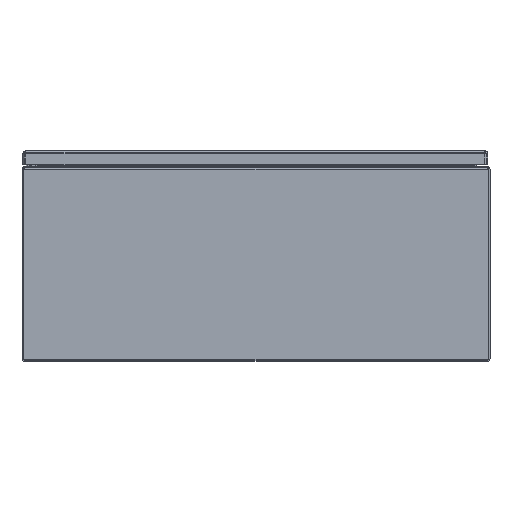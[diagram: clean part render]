
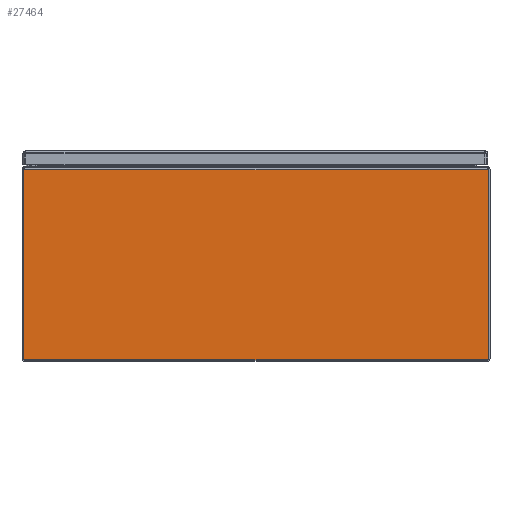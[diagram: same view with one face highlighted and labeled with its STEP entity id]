
A CAD part, front view. The second image highlights one B-rep face of the part: STEP entity #27464.
In plain terms, the highlighted planar face has unit normal (0, -1, 0).
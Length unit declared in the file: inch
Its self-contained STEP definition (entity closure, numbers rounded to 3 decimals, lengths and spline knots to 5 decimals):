
#8000 = EDGE_CURVE ( 'NONE', #39509, #39226, #43890, .T. ) ;
#8216 = EDGE_CURVE ( 'NONE', #39430, #39869, #44000, .T. ) ;
#12680 = AXIS2_PLACEMENT_3D ( 'NONE', #19036, #19040, #19041 ) ;
#19036 = CARTESIAN_POINT ( 'NONE',  ( 12., 0., 0.08 ) ) ;
#19037 = PLANE ( 'NONE',  #12680 ) ;
#19040 = DIRECTION ( 'NONE',  ( 0., -1., 0. ) ) ;
#19041 = DIRECTION ( 'NONE',  ( 0., 0., -1. ) ) ;
#19513 = FACE_OUTER_BOUND ( 'NONE', #29570, .T. ) ;
#20187 = DIRECTION ( 'NONE',  ( -1., 0., 0. ) ) ;
#20237 = CARTESIAN_POINT ( 'NONE',  ( 12., 0., 9.838 ) ) ;
#21614 = DIRECTION ( 'NONE',  ( -1., 0., 0. ) ) ;
#21640 = CARTESIAN_POINT ( 'NONE',  ( 12., 0., 0.08 ) ) ;
#23232 = EDGE_CURVE ( 'NONE', #39430, #39509, #51189, .T. ) ;
#27464 = ADVANCED_FACE ( 'NONE', ( #19513 ), #19037, .T. ) ;
#29570 = EDGE_LOOP ( 'NONE', ( #38402, #38404, #38406, #38407 ) ) ;
#34496 = EDGE_CURVE ( 'NONE', #39869, #39226, #56024, .T. ) ;
#38402 = ORIENTED_EDGE ( 'NONE', *, *, #8000, .F. ) ;
#38404 = ORIENTED_EDGE ( 'NONE', *, *, #23232, .F. ) ;
#38406 = ORIENTED_EDGE ( 'NONE', *, *, #8216, .T. ) ;
#38407 = ORIENTED_EDGE ( 'NONE', *, *, #34496, .T. ) ;
#39226 = VERTEX_POINT ( 'NONE', #59929 ) ;
#39430 = VERTEX_POINT ( 'NONE', #60133 ) ;
#39509 = VERTEX_POINT ( 'NONE', #60212 ) ;
#39869 = VERTEX_POINT ( 'NONE', #61758 ) ;
#43890 = LINE ( 'NONE', #21640, #43894 ) ;
#43894 = VECTOR ( 'NONE', #21614, 39.37008 ) ;
#44000 = LINE ( 'NONE', #20237, #44008 ) ;
#44008 = VECTOR ( 'NONE', #20187, 39.37008 ) ;
#51189 = LINE ( 'NONE', #68379, #51200 ) ;
#51200 = VECTOR ( 'NONE', #68385, 39.37008 ) ;
#56024 = LINE ( 'NONE', #59072, #56025 ) ;
#56025 = VECTOR ( 'NONE', #59073, 39.37008 ) ;
#59072 = CARTESIAN_POINT ( 'NONE',  ( -11.921, 0., 10.569 ) ) ;
#59073 = DIRECTION ( 'NONE',  ( 0., 0., -1. ) ) ;
#59929 = CARTESIAN_POINT ( 'NONE',  ( -11.921, 0., 0.08 ) ) ;
#60133 = CARTESIAN_POINT ( 'NONE',  ( 11.921, 0., 9.838 ) ) ;
#60212 = CARTESIAN_POINT ( 'NONE',  ( 11.921, 0., 0.08 ) ) ;
#61758 = CARTESIAN_POINT ( 'NONE',  ( -11.921, 0., 9.838 ) ) ;
#68379 = CARTESIAN_POINT ( 'NONE',  ( 11.921, 0., 0.08 ) ) ;
#68385 = DIRECTION ( 'NONE',  ( 0., 0., -1. ) ) ;
